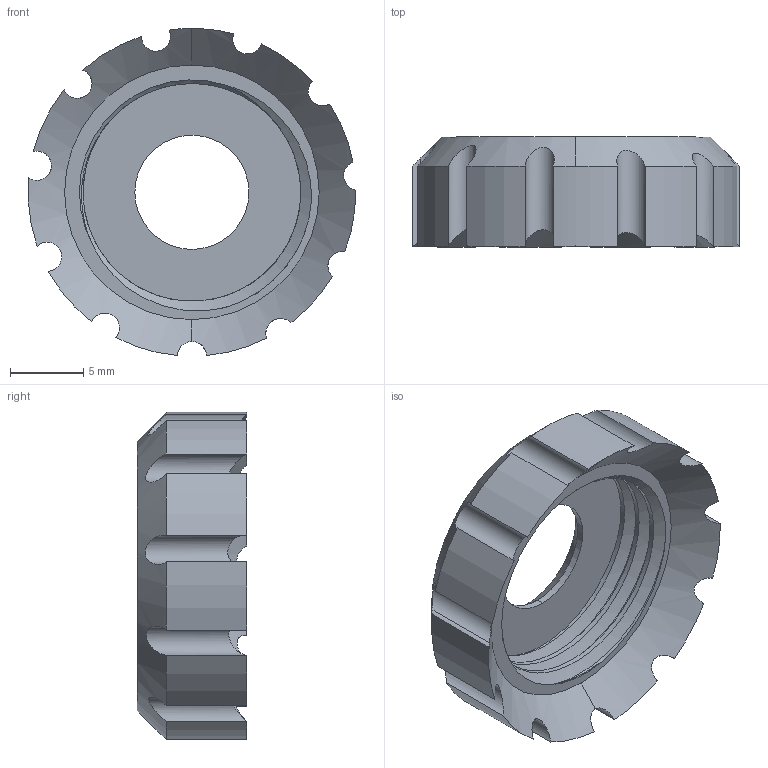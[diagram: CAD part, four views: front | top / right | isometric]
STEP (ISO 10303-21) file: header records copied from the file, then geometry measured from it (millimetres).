
FILE_DESCRIPTION (( 'STEP AP214' ), '1' );
FILE_NAME ('disposable-lens-optic-retainer-[C-mount].STEP', '2024-11-16T15:32:34', ( '' ), ( '' ), '' );
FILE_SCHEMA (( 'AUTOMOTIVE_DESIGN' ));
Length unit declared in the file: millimetre
Products named in the file (1): disposable-lens-optic-retainer-[C-mount-F-mount]-(f+9mm)
Bounding box: 22.38 x 7.5 x 22.36 mm (x, y, z)
Volume: 1218.9 mm3; surface area: 1533.3 mm2
Topology: 1 solids, 1 shells, 53 faces, 146 edges, 96 vertices
Faces by surface type: cylinder 38, cone 6, bspline 5, plane 4
Entity records: 3803 total; most frequent: CARTESIAN_POINT 2537, ORIENTED_EDGE 292, DIRECTION 217, EDGE_CURVE 146, VERTEX_POINT 96, AXIS2_PLACEMENT_3D 86, EDGE_LOOP 56, ADVANCED_FACE 53
